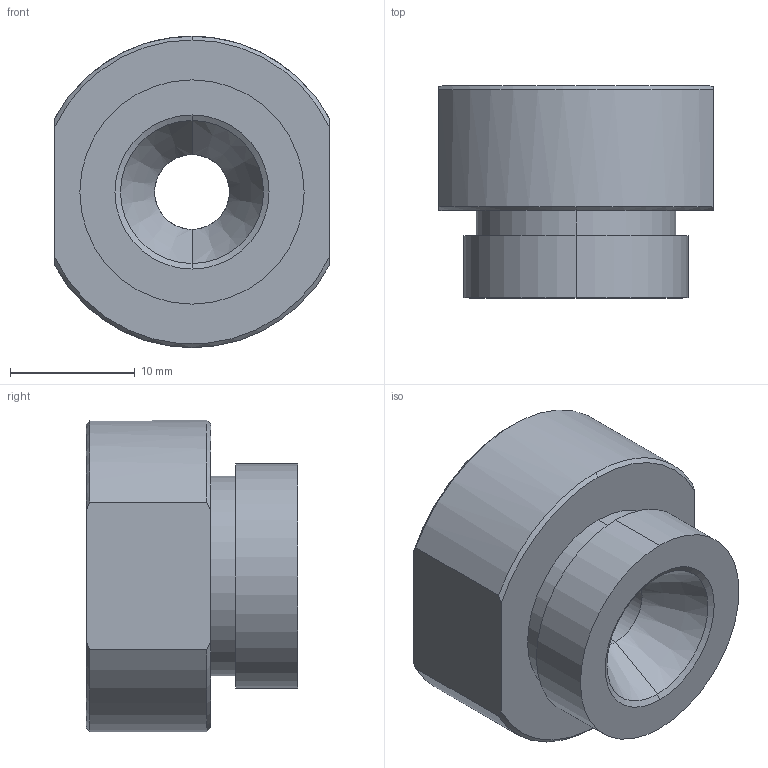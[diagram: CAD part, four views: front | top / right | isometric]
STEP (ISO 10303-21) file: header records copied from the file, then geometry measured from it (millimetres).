
FILE_DESCRIPTION (( 'STEP AP203' ), '1' );
FILE_NAME ('SW-PN-C5.STEP', '2022-04-06T01:30:47', ( '' ), ( '' ), 'SwSTEP 2.0', 'SolidWorks 2015', '' );
FILE_SCHEMA (( 'CONFIG_CONTROL_DESIGN' ));
Length unit declared in the file: millimetre
Products named in the file (2): SW-PN-C5
Bounding box: 22 x 17 x 25 mm (x, y, z)
Volume: 5675.5 mm3; surface area: 2423.8 mm2
Topology: 1 solids, 1 shells, 27 faces, 62 edges, 39 vertices
Faces by surface type: cone 12, cylinder 9, plane 6
Entity records: 966 total; most frequent: CARTESIAN_POINT 188, DIRECTION 139, ORIENTED_EDGE 124, EDGE_CURVE 62, AXIS2_PLACEMENT_3D 58, VERTEX_POINT 39, EDGE_LOOP 31, CIRCLE 29
